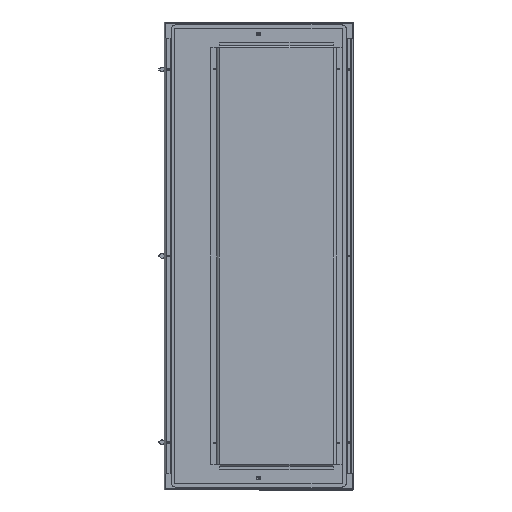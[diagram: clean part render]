
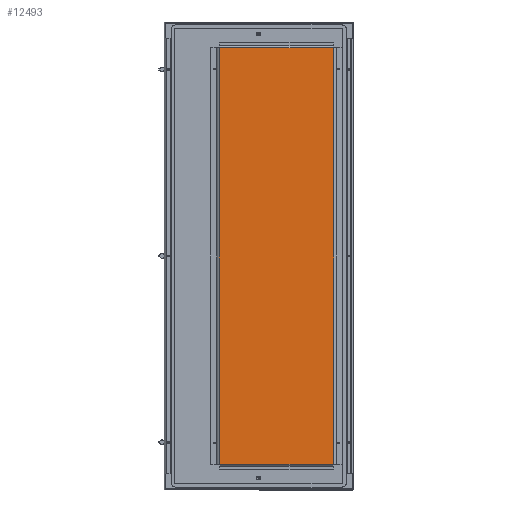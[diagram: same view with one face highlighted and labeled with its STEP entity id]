
A CAD part, top view. The second image highlights one B-rep face of the part: STEP entity #12493.
In plain terms, the highlighted planar face has unit normal (0, 0, 1).
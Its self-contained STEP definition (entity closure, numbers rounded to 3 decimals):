
#4218=DIRECTION('',(1.,0.,0.));
#4219=VECTOR('',#4218,2.229);
#4220=CARTESIAN_POINT('',(231.521,108.5,10.));
#4221=LINE('',#4220,#4219);
#4330=DIRECTION('',(1.,0.,0.));
#4331=VECTOR('',#4330,480.);
#4332=CARTESIAN_POINT('',(233.75,108.5,10.));
#4333=LINE('',#4332,#4331);
#4338=DIRECTION('',(1.,0.,0.));
#4339=VECTOR('',#4338,2.229);
#4340=CARTESIAN_POINT('',(231.521,1868.5,10.));
#4341=LINE('',#4340,#4339);
#4342=DIRECTION('',(1.,0.,0.));
#4343=VECTOR('',#4342,2.229);
#4344=CARTESIAN_POINT('',(713.75,1868.5,10.));
#4345=LINE('',#4344,#4343);
#4350=DIRECTION('',(0.,-1.,0.));
#4351=VECTOR('',#4350,1760.);
#4352=CARTESIAN_POINT('',(231.521,1868.5,10.));
#4353=LINE('',#4352,#4351);
#4554=DIRECTION('',(1.,0.,0.));
#4555=VECTOR('',#4554,2.229);
#4556=CARTESIAN_POINT('',(713.75,108.5,10.));
#4557=LINE('',#4556,#4555);
#4602=DIRECTION('',(0.,1.,0.));
#4603=VECTOR('',#4602,1760.);
#4604=CARTESIAN_POINT('',(715.979,108.5,10.));
#4605=LINE('',#4604,#4603);
#4746=DIRECTION('',(-1.,0.,0.));
#4747=VECTOR('',#4746,480.);
#4748=CARTESIAN_POINT('',(713.75,1868.5,10.));
#4749=LINE('',#4748,#4747);
#6191=CARTESIAN_POINT('',(233.75,108.5,10.));
#6193=VERTEX_POINT('',#6191);
#6208=CARTESIAN_POINT('',(231.521,108.5,10.));
#6209=VERTEX_POINT('',#6208);
#6230=CARTESIAN_POINT('',(713.75,108.5,10.));
#6231=VERTEX_POINT('',#6230);
#6236=CARTESIAN_POINT('',(231.521,1868.5,10.));
#6237=VERTEX_POINT('',#6236);
#6238=CARTESIAN_POINT('',(233.75,1868.5,10.));
#6239=VERTEX_POINT('',#6238);
#6240=CARTESIAN_POINT('',(713.75,1868.5,10.));
#6241=VERTEX_POINT('',#6240);
#6242=CARTESIAN_POINT('',(715.979,1868.5,10.));
#6243=VERTEX_POINT('',#6242);
#6244=CARTESIAN_POINT('',(715.979,108.5,10.));
#6245=VERTEX_POINT('',#6244);
#12472=CARTESIAN_POINT('',(715.979,108.5,10.));
#12473=DIRECTION('',(0.,0.,1.));
#12474=DIRECTION('',(-1.,0.,0.));
#12475=AXIS2_PLACEMENT_3D('',#12472,#12473,#12474);
#12476=PLANE('',#12475);
#12477=ORIENTED_EDGE('',*,*,#12464,.F.);
#12478=ORIENTED_EDGE('',*,*,#12336,.F.);
#12480=ORIENTED_EDGE('',*,*,#12479,.F.);
#12482=ORIENTED_EDGE('',*,*,#12481,.T.);
#12484=ORIENTED_EDGE('',*,*,#12483,.F.);
#12486=ORIENTED_EDGE('',*,*,#12485,.T.);
#12488=ORIENTED_EDGE('',*,*,#12487,.F.);
#12490=ORIENTED_EDGE('',*,*,#12489,.F.);
#12491=EDGE_LOOP('',(#12477,#12478,#12480,#12482,#12484,#12486,#12488,#12490));
#12492=FACE_OUTER_BOUND('',#12491,.F.);
#12336=EDGE_CURVE('',#6209,#6193,#4221,.T.);
#12464=EDGE_CURVE('',#6193,#6231,#4333,.T.);
#12479=EDGE_CURVE('',#6237,#6209,#4353,.T.);
#12481=EDGE_CURVE('',#6237,#6239,#4341,.T.);
#12483=EDGE_CURVE('',#6241,#6239,#4749,.T.);
#12485=EDGE_CURVE('',#6241,#6243,#4345,.T.);
#12487=EDGE_CURVE('',#6245,#6243,#4605,.T.);
#12489=EDGE_CURVE('',#6231,#6245,#4557,.T.);
#12493=ADVANCED_FACE('',(#12492),#12476,.T.);
